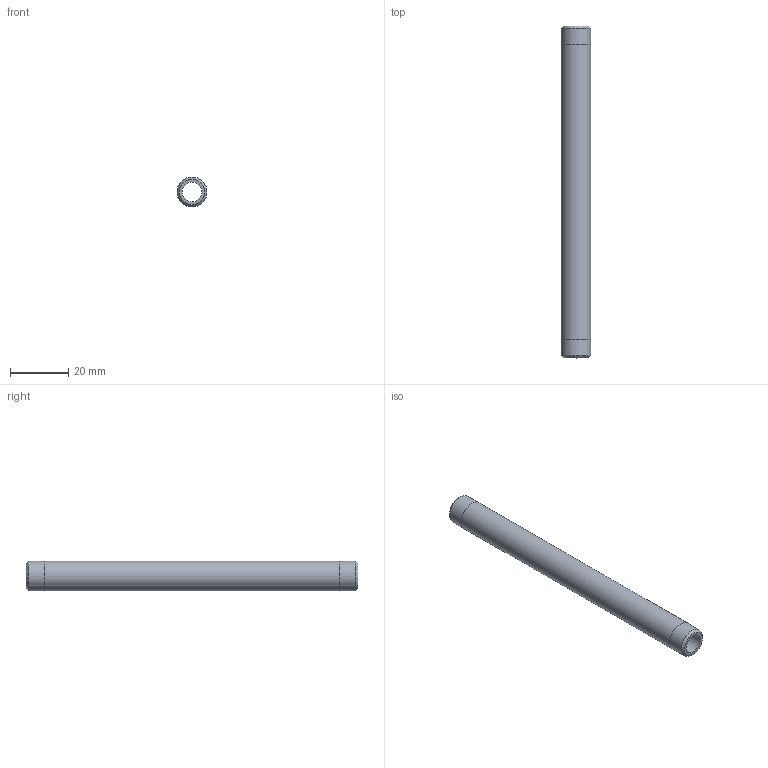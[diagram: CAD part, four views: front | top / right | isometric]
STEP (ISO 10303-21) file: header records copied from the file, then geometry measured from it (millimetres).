
FILE_DESCRIPTION(/* description */ (''),/* implementation_level */ '2;1');
FILE_NAME(/* name */ 'C:/Users/drich/Desktop/SSPN18-4-1_2 v1.step',/* time_stamp */ '2020-01-04T13:31:57-06:00',/* author */ (''),/* organization */ (''),/* preprocessor_version */ 'ST-DEVELOPER v18',/* originating_system */ 'Autodesk Translation Framework v8.12.0.6',/* authorisation */ '');
FILE_SCHEMA (('AUTOMOTIVE_DESIGN { 1 0 10303 214 3 1 1 }'));
Length unit declared in the file: inch
Products named in the file (1): SSPN18-4-1_2
Bounding box: 10.31 x 114.3 x 10.31 mm (x, y, z)
Volume: 5327.6 mm3; surface area: 6217.9 mm2
Topology: 1 solids, 1 shells, 10 faces, 24 edges, 18 vertices
Faces by surface type: cylinder 4, plane 4, cone 2
Full cylindrical faces by diameter (mm): 6.833 x1, 10.262 x2, 10.312 x1
Entity records: 353 total; most frequent: DIRECTION 64, CARTESIAN_POINT 53, ORIENTED_EDGE 48, AXIS2_PLACEMENT_3D 29, EDGE_CURVE 24, CIRCLE 18, VERTEX_POINT 18, EDGE_LOOP 14
